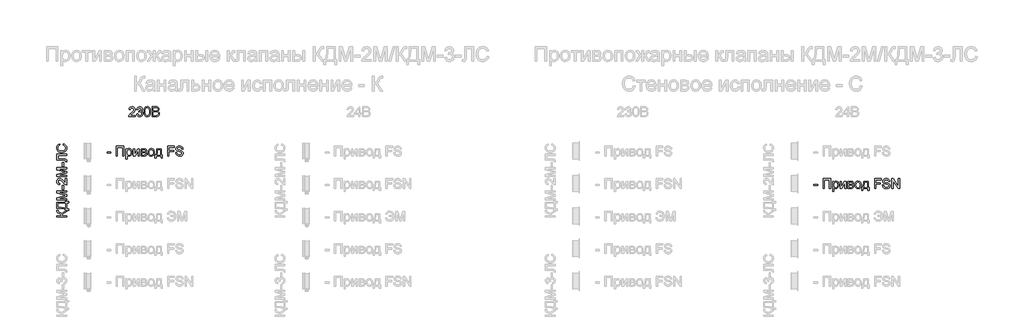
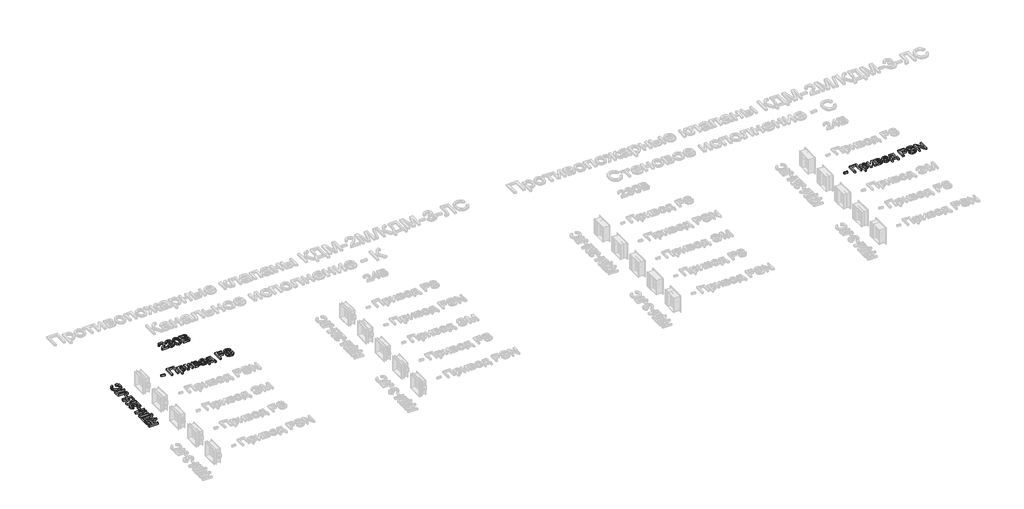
# One storey, part 6 of 23: 4 proxies.
"""IFC4 building model written with IfcOpenShell, lengths in millimetres."""

from ifc_helpers import new_model, si_unit, origin, origin_with_axes, place, context, project, spatial, polyline, outline, extrude, element, save

model = new_model("IFC4")

# Units and contexts
model_context = context("Model", 3, world=origin())
ifc_project = project(units=[si_unit("LENGTHUNIT", "METRE", prefix="MILLI")], contexts=[model_context])

# Site, building, storey
site = spatial("IfcSite", under=ifc_project)
building = spatial("IfcBuilding", under=site)
storey = spatial("IfcBuildingStorey", under=building, Name="Этаж 01", Elevation=0.0)

# Proxies
placement = place(None, origin())
element("IfcBuildingElementProxy", 1, Name="300 мм Arial", ObjectType="300 мм Arial", at=placement, inside=storey, context=model_context, shape_type="SweptSolid", body=[
    extrude(outline(polyline([(2804.7738082, -15034.3206311), (2804.7738082, -14996.6495148), (2922.4960467, -14996.6495148), (2922.4960467, -15034.3206311), (2804.7738082, -15034.3206311)])), origin_with_axes(), (0.0, 0.0, 1.0), 50.0),
    extrude(outline(polyline([(3087.3071805, -14822.4206019), (3322.7516574, -14822.4206019), (3322.7516574, -15123.7895324), (3285.0805411, -15123.7895324), (3285.0805411, -14860.0917182), (3124.9782968, -14860.0917182), (3124.9782968, -15123.7895324), (3087.3071805, -15123.7895324), (3087.3071805, -14822.4206019)])), origin_with_axes(), (0.0, 0.0, 1.0), 50.0),
    extrude(outline(polyline([(3383.9672214, -15208.5495441), (3383.9672214, -14902.4717241), (3421.6383378, -14902.4717241), (3421.6383378, -14939.4070764), (3433.9255964, -14921.1877206), (3447.684383, -14908.173895), (3463.724038, -14900.3655996), (3482.8539017, -14897.7628345), (3508.3297299, -14901.4048663), (3530.6049847, -14912.3309615), (3548.7415671, -14929.8789327), (3561.8013779, -14953.3865922), (3569.6924467, -14981.1432887), (3572.322803, -15011.438371), (3569.3521559, -15043.6556368), (3560.4402145, -15072.469994), (3545.8720875, -15096.4191119), (3525.9328834, -15114.0406595), (3502.7103324, -15124.8839813), (3478.292165, -15128.4984219), (3460.9741201, -15126.0795978), (3445.5138792, -15118.8231254), (3432.2793245, -15107.869439), (3421.6383378, -15094.3589728), (3421.6383378, -15208.5495441), (3383.9672214, -15208.5495441)]), holes=[polyline([(3421.6383378, -15014.8964618), (3425.7126308, -15048.668029), (3437.9355101, -15072.286053), (3455.970925, -15086.1919925), (3477.4828246, -15090.8273056), (3499.3442122, -15086.0264456), (3517.8394795, -15071.6238655), (3530.4486349, -15047.1413187), (3534.6516867, -15012.1005586), (3530.5498024, -14978.5129325), (3518.2441497, -14954.5638146), (3500.236326, -14940.2164168), (3479.027929, -14935.4339508), (3457.7367585, -14940.5199194), (3439.0391561, -14955.7778252), (3425.9885423, -14980.7294215), (3421.6383378, -15014.8964618)])]), origin_with_axes(), (0.0, 0.0, 1.0), 50.0),
    extrude(outline(polyline([(3614.7028088, -14902.4717241), (3652.3739251, -14902.4717241), (3652.3739251, -15071.2559835), (3744.9330351, -14902.4717241), (3793.6406113, -14902.4717241), (3793.6406113, -15123.7895324), (3755.969495, -15123.7895324), (3755.969495, -14956.0353426), (3663.9989962, -15123.7895324), (3614.7028088, -15123.7895324), (3614.7028088, -14902.4717241)])), origin_with_axes(), (0.0, 0.0, 1.0), 50.0),
    extrude(outline(polyline([(3850.1472857, -14902.4717241), (3933.1414638, -14902.4717241), (3959.8221055, -14903.7317199), (3978.6484666, -14907.5117074), (3992.4992238, -14914.6486181), (4004.2530535, -14925.9793836), (4012.2820781, -14940.7406486), (4014.9584196, -14958.1690581), (4013.3397388, -14972.2129533), (4008.4836965, -14984.325468), (4000.3718985, -14994.5617845), (3988.9859507, -15002.9770852), (4002.9286783, -15010.8037746), (4014.296232, -15023.3945359), (4021.856207, -15039.7560876), (4024.3761986, -15058.8951484), (4017.993446, -15087.6083381), (4002.8183137, -15107.8234538), (3978.7956194, -15119.7980127), (3945.8701809, -15123.7895324), (3850.1472857, -15123.7895324), (3850.1472857, -14902.4717241)]), holes=[polyline([(3887.818402, -15086.1184161), (3934.0243806, -15086.1184161), (3959.2059032, -15084.4169618), (3975.0064349, -15079.3125992), (3983.4861149, -15070.0327758), (3986.7050823, -15055.8049397), (3985.0955986, -15046.3779635), (3980.2671474, -15037.6683573), (3972.8543252, -15030.8533433), (3963.4917284, -15027.110144), (3930.3455607, -15024.9028521), (3887.818402, -15024.9028521), (3887.818402, -15086.1184161)]), polyline([(3887.818402, -14987.2317358), (3925.04806, -14987.2317358), (3955.7662065, -14985.3187494), (3970.7022156, -14977.6668039), (3975.6410313, -14971.3392336), (3977.2873033, -14963.8344409), (3974.3994296, -14952.5956459), (3965.7358086, -14945.3667647), (3950.0824297, -14941.4488215), (3926.2252823, -14940.1428404), (3887.818402, -14940.1428404), (3887.818402, -14987.2317358)])]), origin_with_axes(), (0.0, 0.0, 1.0), 50.0),
    extrude(outline(polyline([(4062.047315, -15013.1306282), (4064.0844615, -14984.4680223), (4070.1959011, -14959.7693448), (4080.3816339, -14939.0345959), (4094.6416597, -14922.2637754), (4108.9982546, -14911.5446138), (4124.8447715, -14903.8880698), (4142.1812106, -14899.2941433), (4161.0075717, -14897.7628345), (4181.7906051, -14899.6275364), (4200.5824773, -14905.221642), (4217.3831882, -14914.5451513), (4232.1927377, -14927.5980643), (4244.2799605, -14943.9389227), (4252.9136911, -14963.126268), (4258.0939294, -14985.1601003), (4259.8206756, -15010.0404195), (4256.767255, -15048.0978119), (4247.6069933, -15077.068519), (4232.606605, -15098.7643596), (4212.0328044, -15114.9971527), (4187.5962429, -15125.1231046), (4161.0075717, -15128.4984219), (4139.9210355, -15126.6406178), (4120.9544194, -15121.0672056), (4104.1077233, -15111.7781852), (4089.3809472, -15098.7735567), (4077.4224831, -15082.2740492), (4068.880723, -15062.500392), (4063.755667, -15039.452585), (4062.047315, -15013.1306282)]), holes=[polyline([(4099.7184313, -15013.0570518), (4104.0778329, -15047.1505157), (4117.1560378, -15071.4399245), (4136.8377246, -15085.9804603), (4161.0075717, -15090.8273056), (4185.0670541, -15085.9528692), (4204.7119527, -15071.3295599), (4217.7901576, -15046.7182544), (4222.1495593, -15011.8798294), (4217.7625665, -14978.7796469), (4204.6015881, -14954.821332), (4184.9290984, -14940.2807961), (4161.0075717, -14935.4339508), (4136.8377246, -14940.262402), (4117.1560378, -14954.7477556), (4104.0778329, -14978.981982), (4099.7184313, -15013.0570518)])]), origin_with_axes(), (0.0, 0.0, 1.0), 50.0),
    extrude(outline(polyline([(4335.1629082, -14902.4717241), (4476.4295943, -14902.4717241), (4476.4295943, -15086.1184161), (4504.6829316, -15086.1184161), (4504.6829316, -15185.0050964), (4467.0118152, -15185.0050964), (4467.0118152, -15123.7895324), (4311.6184605, -15123.7895324), (4311.6184605, -15185.0050964), (4273.9473442, -15185.0050964), (4273.9473442, -15086.1184161), (4297.4917919, -15086.1184161), (4314.6075017, -15055.1887373), (4326.5912577, -15014.2710624), (4333.4430598, -14963.3653913), (4335.1629082, -14902.4717241)]), holes=[polyline([(4368.1251349, -14940.1428404), (4365.0349262, -14986.2660455), (4359.2959671, -15025.9697099), (4350.9082576, -15059.2538334), (4339.8717977, -15086.1184161), (4438.758478, -15086.1184161), (4438.758478, -14940.1428404), (4368.1251349, -14940.1428404)])]), origin_with_axes(), (0.0, 0.0, 1.0), 50.0),
    extrude(outline(polyline([(4669.4940654, -15123.7895324), (4669.4940654, -14822.4206019), (4871.9763155, -14822.4206019), (4871.9763155, -14860.0917182), (4707.1651817, -14860.0917182), (4707.1651817, -14949.5606195), (4848.4318678, -14949.5606195), (4848.4318678, -14987.2317358), (4707.1651817, -14987.2317358), (4707.1651817, -15123.7895324), (4669.4940654, -15123.7895324)])), origin_with_axes(), (0.0, 0.0, 1.0), 50.0),
    extrude(outline(polyline([(4909.6474318, -15020.1939625), (4947.3185481, -15020.1939625), (4951.6411616, -15041.0988569), (4959.458654, -15057.901867), (4971.6539421, -15071.2375894), (4989.1099428, -15081.7406203), (5010.4470985, -15088.5556343), (5034.2858518, -15090.8273056), (5055.2735196, -15089.1074573), (5073.6492253, -15083.9479123), (5088.539249, -15075.780932), (5099.0698712, -15065.0387777), (5105.3330621, -15052.7055339), (5107.4207924, -15039.7652847), (5105.857294, -15027.1561293), (5101.1667985, -15016.2576252), (5091.6386549, -15006.9594078), (5075.5622117, -14999.1511124), (5020.7110062, -14984.7669264), (4984.7045559, -14975.2479798), (4961.665946, -14966.1888856), (4942.9131613, -14953.5153509), (4929.6234242, -14938.1562776), (4921.7047642, -14920.4427595), (4919.0652109, -14900.7058905), (4922.3301636, -14878.6421678), (4932.1250217, -14858.0683673), (4948.1922679, -14840.6307607), (4970.2743846, -14827.97562), (4996.7802824, -14820.2776893), (5026.1188715, -14817.7117124), (5057.9038759, -14820.3972509), (5085.7157547, -14828.4538666), (5108.5612266, -14841.7160126), (5125.4470102, -14860.0181418), (5136.1339822, -14882.2198202), (5140.3830192, -14907.1806136), (5102.7119029, -14907.1806136), (5095.7957214, -14884.7030237), (5081.3747472, -14868.4794277), (5058.841975, -14858.6569784), (5027.5903995, -14855.3828287), (4995.60306, -14858.6201902), (4973.658899, -14868.3322749), (4960.9669702, -14882.6244904), (4956.7363272, -14899.6022445), (4959.7345655, -14914.078401), (4968.7292803, -14925.7218662), (4989.9928596, -14936.1329266), (5030.2391499, -14946.7647163), (5071.7730271, -14956.8630771), (5096.8993674, -14965.6738508), (5118.3744789, -14979.340667), (5133.3564731, -14996.2080564), (5142.1580498, -15016.0920783), (5145.0919088, -15038.8087915), (5141.7165914, -15062.0313424), (5131.5906395, -15083.8743359), (5115.1279202, -15102.6731058), (5092.7423008, -15116.7629863), (5065.8225358, -15125.564563), (5035.7573798, -15128.4984219), (4998.8496186, -15125.3346367), (4968.4717629, -15115.8432813), (4944.2743246, -15099.9875673), (4925.907816, -15077.7307066), (4914.1171981, -15050.6178035), (4909.6474318, -15020.1939625)])), origin_with_axes(), (0.0, 0.0, 1.0), 50.0),
])
element("IfcBuildingElementProxy", 2, Name="300 мм Arial", ObjectType="300 мм Arial", at=placement, inside=storey, context=model_context, shape_type="SweptSolid", body=[
    extrude(outline(polyline([(1262.355345, -17002.4984014), (1262.355345, -16964.8272851), (1394.2042521, -16964.8272851), (1391.7118516, -16939.3238658), (1384.23465, -16922.7047967), (1366.6406936, -16909.2679068), (1333.7980285, -16893.3110252), (1291.6755401, -16872.5256925), (1280.2620012, -16862.5009082), (1270.8166309, -16848.9812448), (1264.4706665, -16832.9323928), (1262.355345, -16815.3200423), (1262.7968034, -16790.5983722), (1300.4679197, -16790.5983722), (1300.2471905, -16798.9125053), (1300.0264613, -16807.2266384), (1302.2889356, -16824.4803039), (1309.0763584, -16836.657198), (1323.3317857, -16847.1418349), (1347.8511207, -16859.0244233), (1378.3853263, -16873.6017474), (1395.0871689, -16885.6958679), (1410.6853655, -16911.705125), (1416.8933742, -16897.1140054), (1427.7183019, -16882.6240533), (1463.2189144, -16853.9476518), (1563.7242755, -16790.5983722), (1563.7242755, -16834.3027532), (1478.817111, -16887.8663717), (1451.5846463, -16908.5505369), (1434.4873306, -16925.5742762), (1425.4650246, -16942.9842916), (1422.4575893, -16964.8272851), (1563.7242755, -16964.8272851), (1563.7242755, -17002.4984014), (1262.355345, -17002.4984014)])), origin_with_axes(), (0.0, 0.0, 1.0), 50.0),
    extrude(outline(polyline([(1262.355345, -16729.3828082), (1262.355345, -16550.4450057), (1526.0531592, -16550.4450057), (1526.0531592, -16522.1916685), (1634.3576186, -16522.1916685), (1634.3576186, -16559.8627848), (1563.7242755, -16559.8627848), (1563.7242755, -16752.9272559), (1634.3576186, -16752.9272559), (1634.3576186, -16790.5983722), (1563.7242755, -16790.5983722), (1526.0531592, -16790.5983722), (1526.0531592, -16767.0539245), (1491.8815204, -16750.5728111), (1443.8131392, -16738.8005873), (1381.8480156, -16731.737253), (1305.9861497, -16729.3828082), (1262.355345, -16729.3828082)]), holes=[polyline([(1300.0264613, -16588.116122), (1300.0264613, -16691.7116919), (1315.1831995, -16691.7116919), (1418.4108874, -16699.3636374), (1478.0629529, -16710.6944028), (1526.0531592, -16729.3828082), (1526.0531592, -16588.116122), (1300.0264613, -16588.116122)])]), origin_with_axes(), (0.0, 0.0, 1.0), 50.0),
    extrude(outline(polyline([(1563.7242755, -16475.1027731), (1262.355345, -16475.1027731), (1262.355345, -16410.2819656), (1474.7704091, -16348.6249432), (1519.1369777, -16336.1905318), (1471.0915891, -16322.7260507), (1262.355345, -16262.0990979), (1262.355345, -16197.2782904), (1563.7242755, -16197.2782904), (1563.7242755, -16234.9494067), (1300.0264613, -16234.9494067), (1563.7242755, -16310.6595213), (1563.7242755, -16361.7215422), (1300.0264613, -16437.4316568), (1563.7242755, -16437.4316568), (1563.7242755, -16475.1027731)])), origin_with_axes(), (0.0, 0.0, 1.0), 50.0),
    extrude(outline(polyline([(1474.2553743, -16154.8982845), (1436.584258, -16154.8982845), (1436.584258, -16037.1760461), (1474.2553743, -16037.1760461), (1474.2553743, -16154.8982845)])), origin_with_axes(), (0.0, 0.0, 1.0), 50.0),
    extrude(outline(polyline([(1526.0531592, -15811.1493482), (1563.7242755, -15811.1493482), (1563.7242755, -16008.9227088), (1537.7518066, -16004.8760069), (1517.4539175, -15995.5869865), (1497.7630338, -15981.9937468), (1477.152445, -15962.3304542), (1454.0954409, -15934.831275), (1417.9878231, -15894.1803145), (1391.3347725, -15869.7897383), (1369.7033112, -15857.5944501), (1348.6604611, -15853.5293541), (1329.7973118, -15857.3645239), (1314.1163418, -15868.8700333), (1303.5489314, -15886.5559602), (1300.0264613, -15908.9323826), (1303.466158, -15932.430845), (1313.785248, -15950.686989), (1330.1743908, -15962.4684099), (1351.8242463, -15966.542703), (1347.1153567, -16004.2138193), (1310.6766451, -15995.0811488), (1296.1407078, -15986.5347902), (1284.0603828, -15975.3350827), (1274.5644288, -15961.7395437), (1267.7816045, -15946.0056906), (1262.355345, -15908.1230422), (1263.8636612, -15887.9332184), (1268.3886098, -15869.9644822), (1275.9301907, -15854.2168336), (1286.4884039, -15840.6902724), (1299.2815003, -15829.8262573), (1313.5277306, -15822.0662464), (1329.2270947, -15817.4102399), (1346.3795927, -15815.8582378), (1364.3966134, -15817.5321009), (1382.1009345, -15822.5536901), (1400.1087581, -15831.4656314), (1419.0362868, -15844.8105508), (1441.6334383, -15866.0833272), (1470.6501307, -15898.7788395), (1506.8865072, -15942.1153385), (1526.0531592, -15959.1114867), (1526.0531592, -15811.1493482)])), origin_with_axes(), (0.0, 0.0, 1.0), 50.0),
    extrude(outline(polyline([(1563.7242755, -15759.3515633), (1262.355345, -15759.3515633), (1262.355345, -15694.5307558), (1474.7704091, -15632.8737334), (1519.1369777, -15620.4393219), (1471.0915891, -15606.9748409), (1262.355345, -15546.3478881), (1262.355345, -15481.5270806), (1563.7242755, -15481.5270806), (1563.7242755, -15519.1981969), (1300.0264613, -15519.1981969), (1563.7242755, -15594.9083115), (1563.7242755, -15645.9703324), (1300.0264613, -15721.680447), (1563.7242755, -15721.680447), (1563.7242755, -15759.3515633)])), origin_with_axes(), (0.0, 0.0, 1.0), 50.0),
    extrude(outline(polyline([(1474.2553743, -15439.1470747), (1436.584258, -15439.1470747), (1436.584258, -15321.4248363), (1474.2553743, -15321.4248363), (1474.2553743, -15439.1470747)])), origin_with_axes(), (0.0, 0.0, 1.0), 50.0),
    extrude(outline(polyline([(1262.355345, -15250.7914932), (1262.355345, -15067.1448012), (1563.7242755, -15067.1448012), (1563.7242755, -15104.8159175), (1300.0264613, -15104.8159175), (1300.0264613, -15213.1203769), (1453.8011353, -15213.1203769), (1522.4111274, -15217.4981726), (1541.7985086, -15224.2763984), (1556.3298474, -15235.8554842), (1565.4073356, -15251.7111982), (1568.433165, -15271.3193085), (1563.7242755, -15302.5892781), (1526.0531592, -15297.8803886), (1530.7620487, -15279.8541708), (1528.23286, -15267.1162567), (1520.6452939, -15258.0387685), (1503.6767368, -15252.603312), (1473.0045755, -15250.7914932), (1262.355345, -15250.7914932)])), origin_with_axes(), (0.0, 0.0, 1.0), 50.0),
    extrude(outline(polyline([(1456.5970385, -14789.3203184), (1466.3091232, -14751.6492021), (1489.7363085, -14759.1034111), (1510.2066422, -14769.0316264), (1527.7201245, -14781.4338482), (1542.2767552, -14796.3100763), (1553.7201845, -14813.3246186), (1561.8940626, -14832.1417827), (1566.7983894, -14852.7615685), (1568.433165, -14875.1839761), (1563.4851522, -14918.8791601), (1548.6411137, -14953.5796293), (1524.4160843, -14980.1774975), (1491.3250988, -14999.5648787), (1452.4215778, -15011.4014819), (1410.7589419, -15015.3470163), (1366.8154376, -15010.8864471), (1328.8684098, -14997.5047395), (1298.122672, -14975.9008693), (1275.7830379, -14946.7738124), (1262.1806011, -14912.229693), (1257.6464555, -14874.3746357), (1263.5141733, -14833.0706847), (1270.8488206, -14815.1019485), (1281.1173268, -14798.9220385), (1294.0483789, -14784.7976692), (1309.370664, -14772.9955549), (1347.1889331, -14756.3580917), (1356.1652538, -14794.029208), (1328.6936658, -14807.0890188), (1309.8489106, -14824.9312956), (1298.9504065, -14847.7767675), (1295.3175718, -14875.8461637), (1299.3458797, -14908.2013852), (1311.4308032, -14934.7808593), (1330.3031495, -14954.9499897), (1354.6937258, -14968.0741799), (1382.2664814, -14975.2754699), (1410.6853655, -14977.6759), (1445.4870022, -14974.8340115), (1475.5797494, -14966.3083463), (1499.8139759, -14951.7770075), (1517.0400503, -14930.9180984), (1527.3315491, -14905.9113198), (1530.7620487, -14878.9363725), (1526.0899474, -14847.4916589), (1512.0736434, -14821.2892638), (1488.8602895, -14801.5064095), (1456.5970385, -14789.3203184)])), origin_with_axes(), (0.0, 0.0, 1.0), 50.0),
])
element("IfcBuildingElementProxy", 3, Name="300 мм Arial", ObjectType="300 мм Arial", at=placement, inside=storey, context=model_context, shape_type="SweptSolid", body=[
    extrude(outline(polyline([(3672.9728635, -13873.066365), (3672.9728635, -13910.7374813), (3475.1995029, -13910.7374813), (3479.2462048, -13884.7650124), (3488.5352252, -13864.4671233), (3502.1284649, -13844.7762395), (3521.7917576, -13824.1656508), (3549.2909367, -13801.1086467), (3589.9418972, -13765.0010289), (3614.3324735, -13738.3479783), (3626.5277616, -13716.716517), (3630.5928576, -13695.6736669), (3626.7576878, -13676.8105176), (3615.2521784, -13661.1295476), (3597.5662515, -13650.5621372), (3575.1898292, -13647.0396671), (3551.6913667, -13650.4793638), (3533.4352227, -13660.7984538), (3521.6538018, -13677.1875966), (3517.5795087, -13698.8374521), (3479.9083924, -13694.1285625), (3489.041063, -13657.6898509), (3497.5874216, -13643.1539136), (3508.787129, -13631.0735886), (3522.382668, -13621.5776346), (3538.1165211, -13614.7948103), (3575.9991696, -13609.3685508), (3596.1889933, -13610.876867), (3614.1577295, -13615.4018156), (3629.9053782, -13622.9433965), (3643.4319393, -13633.5016097), (3654.2959544, -13646.2947061), (3662.0559653, -13660.5409364), (3666.7119718, -13676.2403005), (3668.263974, -13693.3927985), (3666.5901109, -13711.4098192), (3661.5685216, -13729.1141403), (3652.6565803, -13747.1219639), (3639.3116609, -13766.0494926), (3618.0388846, -13788.6466441), (3585.3433722, -13817.6633365), (3542.0068732, -13853.899713), (3525.010725, -13873.066365), (3672.9728635, -13873.066365)])), origin_with_axes(), (0.0, 0.0, 1.0), 50.0),
    extrude(outline(polyline([(3710.6439798, -13830.6863591), (3748.3150961, -13825.9774696), (3756.7487908, -13849.650676), (3769.1004288, -13865.6351487), (3785.9770154, -13874.7402281), (3807.9855557, -13877.7752545), (3833.8108718, -13873.5997939), (3853.7500759, -13861.0734119), (3866.4971871, -13842.3850066), (3870.7462241, -13819.7234757), (3866.5339753, -13798.211576), (3853.8972287, -13780.7647724), (3834.767365, -13769.2040807), (3811.0757645, -13765.3505168), (3784.6618372, -13769.4707951), (3788.855692, -13731.7996788), (3794.8889567, -13732.2411372), (3817.4585171, -13729.5372046), (3837.6368445, -13721.4254066), (3851.8738777, -13707.7034081), (3856.6195555, -13688.1688742), (3853.1798588, -13671.899293), (3842.8607689, -13658.7015264), (3827.1154195, -13649.955132), (3807.3969445, -13647.0396671), (3787.6416814, -13649.9827231), (3771.4916618, -13658.811891), (3759.7010439, -13673.5271708), (3753.0239856, -13694.1285625), (3715.3528693, -13689.419673), (3726.4445115, -13655.5929235), (3746.1813805, -13630.3378246), (3773.183919, -13614.6108693), (3806.0725693, -13609.3685508), (3829.7549728, -13611.9529219), (3851.5059957, -13619.7060349), (3869.8449132, -13631.9381112), (3883.2910001, -13647.9593721), (3891.5407539, -13666.4178512), (3894.2906718, -13685.9615822), (3891.6787096, -13704.171741), (3883.8428231, -13720.6896426), (3870.8933769, -13734.7611289), (3852.9407355, -13745.6320418), (3876.5219714, -13755.1601855), (3893.9963662, -13771.3837815), (3904.8120968, -13793.419913), (3908.4173404, -13820.3856633), (3906.6147186, -13839.4971329), (3901.2068533, -13857.1002864), (3892.1937444, -13873.1951237), (3879.575392, -13887.7816448), (3864.2025231, -13899.8849624), (3846.9258649, -13908.5301893), (3827.7454174, -13913.7173254), (3806.6611805, -13915.4463708), (3787.6048932, -13913.9702443), (3770.240863, -13909.5418648), (3754.56909, -13902.1612323), (3740.5895742, -13891.8283467), (3728.8679341, -13879.1502135), (3719.9697884, -13864.7338378), (3713.8951369, -13848.5792197), (3710.6439798, -13830.6863591)])), origin_with_axes(), (0.0, 0.0, 1.0), 50.0),
    extrude(outline(polyline([(3941.3795672, -13762.4810372), (3944.1478792, -13714.2425106), (3952.4528152, -13675.771251), (3966.2116018, -13646.4786471), (3985.3414656, -13625.7760878), (4009.9803622, -13613.4704351), (4040.2662475, -13609.3685508), (4063.4796014, -13611.796572), (4084.2649341, -13619.0806355), (4101.6473584, -13630.9356328), (4114.6519869, -13647.0764553), (4124.4744362, -13667.3651474), (4132.3103227, -13691.6637532), (4137.4422765, -13722.5198555), (4139.1529278, -13762.4810372), (4136.4122069, -13810.4436523), (4128.1900443, -13848.8229415), (4114.5140312, -13878.1431365), (4095.4117586, -13898.9284692), (4070.7176796, -13911.3168954), (4040.2662475, -13915.4463708), (4019.5177029, -13913.6529461), (4001.1236032, -13908.2726719), (3985.0839482, -13899.3055483), (3971.398738, -13886.7515752), (3958.2653507, -13864.0578546), (3948.8843599, -13835.7815248), (3943.2557653, -13801.9225856), (3941.3795672, -13762.4810372)]), holes=[polyline([(3979.0506835, -13762.4074608), (3983.4652674, -13821.6640532), (3988.9834973, -13841.9320519), (3996.7090192, -13855.9598522), (4016.4274942, -13872.3214039), (4040.2662475, -13877.7752545), (4064.1050008, -13872.3030098), (4083.8234757, -13855.8862758), (4091.5489976, -13841.8354829), (4097.0672275, -13821.5720827), (4101.4818115, -13762.4074608), (4097.2143803, -13704.4844407), (4091.8800914, -13684.2831206), (4084.4120869, -13669.9219272), (4064.7304002, -13652.7602322), (4039.8247891, -13647.0396671), (4016.2435532, -13652.0796505), (3997.2976304, -13667.1996005), (3989.3145911, -13682.8345853), (3983.6124202, -13703.9142236), (3979.0506835, -13762.4074608)])]), origin_with_axes(), (0.0, 0.0, 1.0), 50.0),
    extrude(outline(polyline([(4186.2418232, -13910.7374813), (4186.2418232, -13609.3685508), (4301.2417349, -13609.3685508), (4332.8703894, -13611.5850399), (4357.5644683, -13618.2345069), (4376.491997, -13629.4824989), (4390.8210007, -13645.4945628), (4399.8433066, -13664.3301209), (4402.8507419, -13684.0485959), (4400.3215532, -13702.1943753), (4392.7339871, -13719.2549028), (4380.0328612, -13734.1817147), (4362.1629933, -13745.9263474), (4383.509346, -13757.0731719), (4399.2822866, -13774.0325319), (4409.0219624, -13795.6823873), (4412.268521, -13820.9006981), (4410.052032, -13841.915957), (4403.4025649, -13861.4045057), (4393.4789481, -13877.9775896), (4381.4400098, -13890.2464542), (4366.6971388, -13899.1308043), (4348.661724, -13905.5503452), (4300.3588181, -13910.7374813), (4186.2418232, -13910.7374813)]), holes=[polyline([(4223.9129395, -13731.7996788), (4292.7068726, -13731.7996788), (4332.8795864, -13728.5623173), (4346.9418757, -13722.979708), (4357.0494335, -13714.6195897), (4363.1470776, -13703.6107209), (4365.1796256, -13690.0818606), (4363.2850333, -13676.9484733), (4357.6012565, -13665.5073433), (4348.3858125, -13656.5770079), (4335.8962188, -13650.9760045), (4287.4829482, -13647.0396671), (4223.9129395, -13647.0396671), (4223.9129395, -13731.7996788)]), polyline([(4223.9129395, -13873.066365), (4301.1681585, -13873.066365), (4329.1271901, -13871.594837), (4352.7820024, -13863.3910685), (4368.4537754, -13846.6524377), (4373.0614974, -13834.8250316), (4374.5974047, -13821.2685801), (4372.7947829, -13805.5232307), (4367.3869176, -13791.9851732), (4357.9415474, -13781.3993688), (4344.0264109, -13774.5107785), (4324.317133, -13770.730791), (4297.4893385, -13769.4707951), (4223.9129395, -13769.4707951), (4223.9129395, -13873.066365)])]), origin_with_axes(), (0.0, 0.0, 1.0), 50.0),
])
element("IfcBuildingElementProxy", 4, Name="300 мм Arial", ObjectType="300 мм Arial", at=placement, inside=storey, context=model_context, shape_type="SweptSolid", body=[
    extrude(outline(polyline([(24504.7738082, -16034.3206311), (24504.7738082, -15996.6495148), (24622.4960467, -15996.6495148), (24622.4960467, -16034.3206311), (24504.7738082, -16034.3206311)])), origin_with_axes(), (0.0, 0.0, 1.0), 50.0),
    extrude(outline(polyline([(24787.3071805, -15822.4206019), (25022.7516574, -15822.4206019), (25022.7516574, -16123.7895324), (24985.0805411, -16123.7895324), (24985.0805411, -15860.0917182), (24824.9782968, -15860.0917182), (24824.9782968, -16123.7895324), (24787.3071805, -16123.7895324), (24787.3071805, -15822.4206019)])), origin_with_axes(), (0.0, 0.0, 1.0), 50.0),
    extrude(outline(polyline([(25083.9672214, -16208.5495441), (25083.9672214, -15902.4717241), (25121.6383378, -15902.4717241), (25121.6383378, -15939.4070764), (25133.9255964, -15921.1877206), (25147.684383, -15908.173895), (25163.724038, -15900.3655996), (25182.8539017, -15897.7628345), (25208.3297299, -15901.4048663), (25230.6049847, -15912.3309615), (25248.7415671, -15929.8789327), (25261.8013779, -15953.3865922), (25269.6924467, -15981.1432887), (25272.322803, -16011.438371), (25269.3521559, -16043.6556368), (25260.4402145, -16072.469994), (25245.8720875, -16096.4191119), (25225.9328834, -16114.0406595), (25202.7103324, -16124.8839813), (25178.292165, -16128.4984219), (25160.9741201, -16126.0795978), (25145.5138792, -16118.8231254), (25132.2793245, -16107.869439), (25121.6383378, -16094.3589728), (25121.6383378, -16208.5495441), (25083.9672214, -16208.5495441)]), holes=[polyline([(25121.6383378, -16014.8964618), (25125.7126308, -16048.668029), (25137.9355101, -16072.286053), (25155.970925, -16086.1919925), (25177.4828246, -16090.8273056), (25199.3442122, -16086.0264456), (25217.8394795, -16071.6238655), (25230.4486349, -16047.1413187), (25234.6516867, -16012.1005586), (25230.5498024, -15978.5129325), (25218.2441497, -15954.5638146), (25200.236326, -15940.2164168), (25179.027929, -15935.4339508), (25157.7367585, -15940.5199194), (25139.0391561, -15955.7778252), (25125.9885423, -15980.7294215), (25121.6383378, -16014.8964618)])]), origin_with_axes(), (0.0, 0.0, 1.0), 50.0),
    extrude(outline(polyline([(25314.7028088, -15902.4717241), (25352.3739251, -15902.4717241), (25352.3739251, -16071.2559835), (25444.9330351, -15902.4717241), (25493.6406113, -15902.4717241), (25493.6406113, -16123.7895324), (25455.969495, -16123.7895324), (25455.969495, -15956.0353426), (25363.9989962, -16123.7895324), (25314.7028088, -16123.7895324), (25314.7028088, -15902.4717241)])), origin_with_axes(), (0.0, 0.0, 1.0), 50.0),
    extrude(outline(polyline([(25550.1472857, -15902.4717241), (25633.1414638, -15902.4717241), (25659.8221055, -15903.7317199), (25678.6484666, -15907.5117074), (25692.4992238, -15914.6486181), (25704.2530535, -15925.9793836), (25712.2820781, -15940.7406486), (25714.9584196, -15958.1690581), (25713.3397388, -15972.2129533), (25708.4836965, -15984.325468), (25700.3718985, -15994.5617845), (25688.9859507, -16002.9770852), (25702.9286783, -16010.8037746), (25714.296232, -16023.3945359), (25721.856207, -16039.7560876), (25724.3761986, -16058.8951484), (25717.993446, -16087.6083381), (25702.8183137, -16107.8234538), (25678.7956194, -16119.7980127), (25645.8701809, -16123.7895324), (25550.1472857, -16123.7895324), (25550.1472857, -15902.4717241)]), holes=[polyline([(25587.818402, -16086.1184161), (25634.0243806, -16086.1184161), (25659.2059032, -16084.4169618), (25675.0064349, -16079.3125992), (25683.4861149, -16070.0327758), (25686.7050823, -16055.8049397), (25685.0955986, -16046.3779635), (25680.2671474, -16037.6683573), (25672.8543252, -16030.8533433), (25663.4917284, -16027.110144), (25630.3455607, -16024.9028521), (25587.818402, -16024.9028521), (25587.818402, -16086.1184161)]), polyline([(25587.818402, -15987.2317358), (25625.04806, -15987.2317358), (25655.7662065, -15985.3187494), (25670.7022156, -15977.6668039), (25675.6410313, -15971.3392336), (25677.2873033, -15963.8344409), (25674.3994296, -15952.5956459), (25665.7358086, -15945.3667647), (25650.0824297, -15941.4488215), (25626.2252823, -15940.1428404), (25587.818402, -15940.1428404), (25587.818402, -15987.2317358)])]), origin_with_axes(), (0.0, 0.0, 1.0), 50.0),
    extrude(outline(polyline([(25762.047315, -16013.1306282), (25764.0844615, -15984.4680223), (25770.1959011, -15959.7693448), (25780.3816339, -15939.0345959), (25794.6416597, -15922.2637754), (25808.9982546, -15911.5446138), (25824.8447715, -15903.8880698), (25842.1812106, -15899.2941433), (25861.0075717, -15897.7628345), (25881.7906051, -15899.6275364), (25900.5824773, -15905.221642), (25917.3831882, -15914.5451513), (25932.1927377, -15927.5980643), (25944.2799605, -15943.9389227), (25952.9136911, -15963.126268), (25958.0939294, -15985.1601003), (25959.8206756, -16010.0404195), (25956.767255, -16048.0978119), (25947.6069933, -16077.068519), (25932.606605, -16098.7643596), (25912.0328044, -16114.9971527), (25887.5962429, -16125.1231046), (25861.0075717, -16128.4984219), (25839.9210355, -16126.6406178), (25820.9544194, -16121.0672056), (25804.1077233, -16111.7781852), (25789.3809472, -16098.7735567), (25777.4224831, -16082.2740492), (25768.880723, -16062.500392), (25763.755667, -16039.452585), (25762.047315, -16013.1306282)]), holes=[polyline([(25799.7184313, -16013.0570518), (25804.0778329, -16047.1505157), (25817.1560378, -16071.4399245), (25836.8377246, -16085.9804603), (25861.0075717, -16090.8273056), (25885.0670541, -16085.9528692), (25904.7119527, -16071.3295599), (25917.7901576, -16046.7182544), (25922.1495593, -16011.8798294), (25917.7625665, -15978.7796469), (25904.6015881, -15954.821332), (25884.9290984, -15940.2807961), (25861.0075717, -15935.4339508), (25836.8377246, -15940.262402), (25817.1560378, -15954.7477556), (25804.0778329, -15978.981982), (25799.7184313, -16013.0570518)])]), origin_with_axes(), (0.0, 0.0, 1.0), 50.0),
    extrude(outline(polyline([(26035.1629082, -15902.4717241), (26176.4295943, -15902.4717241), (26176.4295943, -16086.1184161), (26204.6829316, -16086.1184161), (26204.6829316, -16185.0050964), (26167.0118152, -16185.0050964), (26167.0118152, -16123.7895324), (26011.6184605, -16123.7895324), (26011.6184605, -16185.0050964), (25973.9473442, -16185.0050964), (25973.9473442, -16086.1184161), (25997.4917919, -16086.1184161), (26014.6075017, -16055.1887373), (26026.5912577, -16014.2710624), (26033.4430598, -15963.3653913), (26035.1629082, -15902.4717241)]), holes=[polyline([(26068.1251349, -15940.1428404), (26065.0349262, -15986.2660455), (26059.2959671, -16025.9697099), (26050.9082576, -16059.2538334), (26039.8717977, -16086.1184161), (26138.758478, -16086.1184161), (26138.758478, -15940.1428404), (26068.1251349, -15940.1428404)])]), origin_with_axes(), (0.0, 0.0, 1.0), 50.0),
    extrude(outline(polyline([(26369.4940654, -16123.7895324), (26369.4940654, -15822.4206019), (26571.9763155, -15822.4206019), (26571.9763155, -15860.0917182), (26407.1651817, -15860.0917182), (26407.1651817, -15949.5606195), (26548.4318678, -15949.5606195), (26548.4318678, -15987.2317358), (26407.1651817, -15987.2317358), (26407.1651817, -16123.7895324), (26369.4940654, -16123.7895324)])), origin_with_axes(), (0.0, 0.0, 1.0), 50.0),
    extrude(outline(polyline([(26609.6474318, -16020.1939625), (26647.3185481, -16020.1939625), (26651.6411616, -16041.0988569), (26659.458654, -16057.901867), (26671.6539421, -16071.2375894), (26689.1099428, -16081.7406203), (26710.4470985, -16088.5556343), (26734.2858518, -16090.8273056), (26755.2735196, -16089.1074573), (26773.6492253, -16083.9479123), (26788.539249, -16075.780932), (26799.0698712, -16065.0387777), (26805.3330621, -16052.7055339), (26807.4207924, -16039.7652847), (26805.857294, -16027.1561293), (26801.1667985, -16016.2576252), (26791.6386549, -16006.9594078), (26775.5622117, -15999.1511124), (26720.7110062, -15984.7669264), (26684.7045559, -15975.2479798), (26661.665946, -15966.1888856), (26642.9131613, -15953.5153509), (26629.6234242, -15938.1562776), (26621.7047642, -15920.4427595), (26619.0652109, -15900.7058905), (26622.3301636, -15878.6421678), (26632.1250217, -15858.0683673), (26648.1922679, -15840.6307607), (26670.2743846, -15827.97562), (26696.7802824, -15820.2776893), (26726.1188715, -15817.7117124), (26757.9038759, -15820.3972509), (26785.7157547, -15828.4538666), (26808.5612266, -15841.7160126), (26825.4470102, -15860.0181418), (26836.1339822, -15882.2198202), (26840.3830192, -15907.1806136), (26802.7119029, -15907.1806136), (26795.7957214, -15884.7030237), (26781.3747472, -15868.4794277), (26758.841975, -15858.6569784), (26727.5903995, -15855.3828287), (26695.60306, -15858.6201902), (26673.658899, -15868.3322749), (26660.9669702, -15882.6244904), (26656.7363272, -15899.6022445), (26659.7345655, -15914.078401), (26668.7292803, -15925.7218662), (26689.9928596, -15936.1329266), (26730.2391499, -15946.7647163), (26771.7730271, -15956.8630771), (26796.8993674, -15965.6738508), (26818.3744789, -15979.340667), (26833.3564731, -15996.2080564), (26842.1580498, -16016.0920783), (26845.0919088, -16038.8087915), (26841.7165914, -16062.0313424), (26831.5906395, -16083.8743359), (26815.1279202, -16102.6731058), (26792.7423008, -16116.7629863), (26765.8225358, -16125.564563), (26735.7573798, -16128.4984219), (26698.8496186, -16125.3346367), (26668.4717629, -16115.8432813), (26644.2743246, -16099.9875673), (26625.907816, -16077.7307066), (26614.1171981, -16050.6178035), (26609.6474318, -16020.1939625)])), origin_with_axes(), (0.0, 0.0, 1.0), 50.0),
    extrude(outline(polyline([(26901.5985832, -16123.7895324), (26901.5985832, -15822.4206019), (26941.9184499, -15822.4206019), (27099.3719438, -16061.1760168), (27099.3719438, -15822.4206019), (27137.0430601, -15822.4206019), (27137.0430601, -16123.7895324), (27096.7231935, -16123.7895324), (26939.2696995, -15884.9605411), (26939.2696995, -16123.7895324), (26901.5985832, -16123.7895324)])), origin_with_axes(), (0.0, 0.0, 1.0), 50.0),
])

save(model, "model.ifc")
